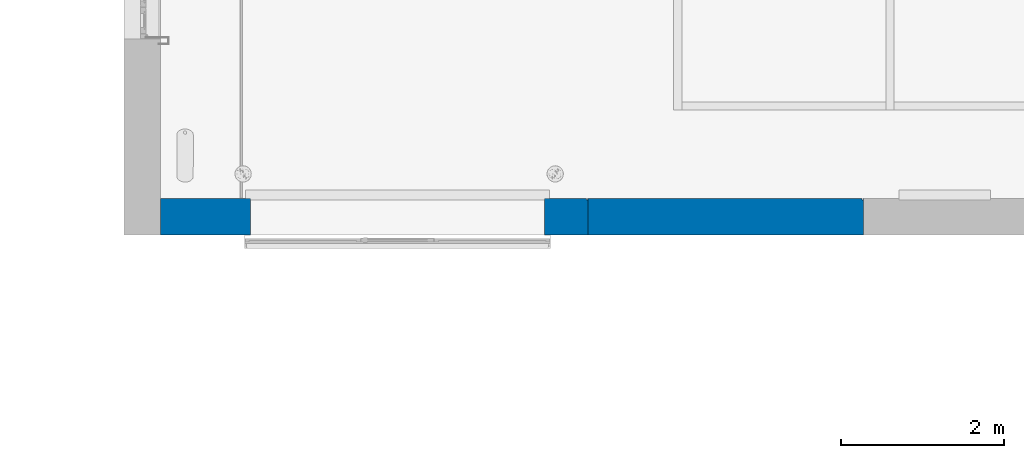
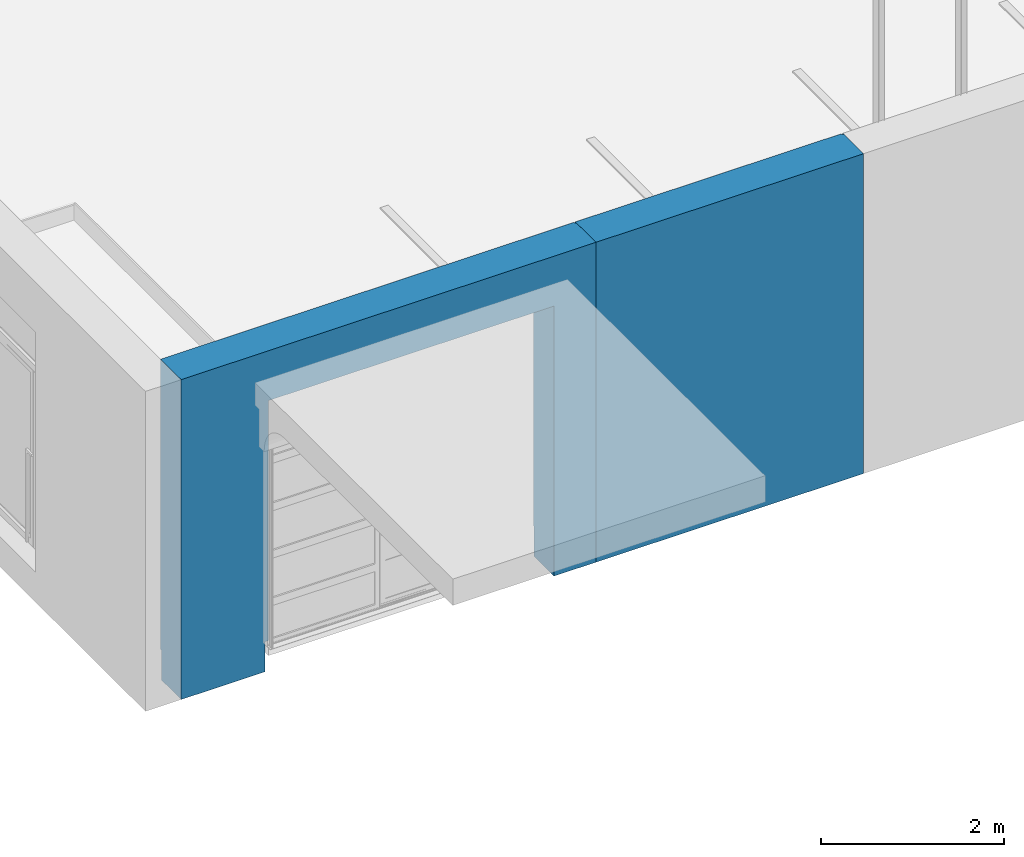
# One storey, part 28 of 77: 2 walls, 6 openings.
"""IFC2X3 building model written with IfcOpenShell, lengths in millimetres."""

from ifc_helpers import new_model, entity, si_unit, converted_unit, derived_unit, direction, frame, frame_2d, origin, origin_2d_with_axis, place, context, subcontext, project, spatial, rectangle, extrude, faceted_brep, material, layer, layer_set, layer_usage, type_object, element, save


model = new_model("IFC2X3")

# Units and contexts
model_context = context("Model", 3, precision=0.01, world=origin(), true_north=direction((6.12303176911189e-17, 1.0)))
body_context = subcontext(model_context, "Body", "Model", "MODEL_VIEW")
ifc_project = project(units=[si_unit("LENGTHUNIT", "METRE", prefix="MILLI"), si_unit("AREAUNIT", "SQUARE_METRE"), si_unit("VOLUMEUNIT", "CUBIC_METRE"), converted_unit("PLANEANGLEUNIT", "DEGREE", entity("IfcRatioMeasure", 0.0174532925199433), si_unit("PLANEANGLEUNIT", "RADIAN"), dimensions=[0, 0, 0, 0, 0, 0, 0]), si_unit("MASSUNIT", "GRAM", prefix="KILO"), derived_unit("MASSDENSITYUNIT", [(si_unit("MASSUNIT", "GRAM", prefix="KILO"), 1), (si_unit("LENGTHUNIT", "METRE"), -3)]), si_unit("TIMEUNIT", "SECOND"), si_unit("FREQUENCYUNIT", "HERTZ"), si_unit("THERMODYNAMICTEMPERATUREUNIT", "DEGREE_CELSIUS"), derived_unit("THERMALTRANSMITTANCEUNIT", [(si_unit("MASSUNIT", "GRAM", prefix="KILO"), 1), (si_unit("THERMODYNAMICTEMPERATUREUNIT", "KELVIN"), -1), (si_unit("TIMEUNIT", "SECOND"), -3)]), derived_unit("VOLUMETRICFLOWRATEUNIT", [(si_unit("LENGTHUNIT", "METRE"), 3), (si_unit("TIMEUNIT", "SECOND"), -1)]), si_unit("ELECTRICCURRENTUNIT", "AMPERE"), si_unit("ELECTRICVOLTAGEUNIT", "VOLT"), si_unit("POWERUNIT", "WATT"), si_unit("FORCEUNIT", "NEWTON", prefix="KILO"), si_unit("ILLUMINANCEUNIT", "LUX"), si_unit("LUMINOUSFLUXUNIT", "LUMEN"), si_unit("LUMINOUSINTENSITYUNIT", "CANDELA"), derived_unit("USERDEFINED", [(si_unit("MASSUNIT", "GRAM", prefix="KILO"), -1), (si_unit("LENGTHUNIT", "METRE"), -2), (si_unit("TIMEUNIT", "SECOND"), 3), (si_unit("LUMINOUSFLUXUNIT", "LUMEN"), 1)]), derived_unit("LINEARVELOCITYUNIT", [(si_unit("LENGTHUNIT", "METRE"), 1), (si_unit("TIMEUNIT", "SECOND"), -1)]), si_unit("PRESSUREUNIT", "PASCAL"), derived_unit("USERDEFINED", [(si_unit("LENGTHUNIT", "METRE"), -2), (si_unit("MASSUNIT", "GRAM", prefix="KILO"), 1), (si_unit("TIMEUNIT", "SECOND"), -2)])], contexts=[model_context])

# Site, building, storey
site_placement = place(None, origin())
site = spatial("IfcSite", under=ifc_project, at=site_placement, Name="Default", CompositionType="ELEMENT")
building_placement = place(site_placement, origin())
building = spatial("IfcBuilding", under=site, at=building_placement, CompositionType="ELEMENT")
storey_placement = place(building_placement, origin())
storey = spatial("IfcBuildingStorey", under=building, at=storey_placement, Name="1. KORRUS", CompositionType="ELEMENT", Elevation=0.0)

# Wall, openings
ifc_material_1 = material(Name="RECKLI 1 173 THUR by Polantis 2016-toon3")
ifc_layer_1 = layer(ifc_material_1, 100.0)
ifc_material_2 = material(Name="Soojusisolatsioon EPS")
ifc_layer_2 = layer(ifc_material_2, 200.0)
ifc_material_3 = material(Name="r/b")
ifc_layer_3 = layer(ifc_material_3, 150.0)
ifc_layer_set = layer_set([ifc_layer_1, ifc_layer_2, ifc_layer_3], Name="Basic Wall:VS-1_toon-b")
ifc_layer_usage_1 = layer_usage(ifc_layer_set, "AXIS2", "NEGATIVE", 225.0)
wall_type = type_object("IfcWallType", Name="Basic Wall:VS-1_toon-b", PredefinedType="STANDARD", material=ifc_layer_set)
wall_1_placement = place(storey_placement, frame((9650.0, 21725.0517807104, -400.0)))
wall_1 = element("IfcWallStandardCase", 1, at=wall_1_placement, inside=storey, type_object=wall_type, material=ifc_layer_usage_1, Name="Basic Wall:VS-1_toon-b", ObjectType="Basic Wall:VS-1_toon-b", context=body_context, shape_type="SweptSolid", body=[
    extrude(rectangle(XDim=5230.00000000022, YDim=450.000000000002, at=frame_2d((2615.00000000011, -3.5527136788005e-13), x_axis=(-1.0, 0.0))), origin(), (0.0, 0.0, 1.0), 4265.0),
])
opening_1_placement = place(wall_1_placement, origin())
element("IfcOpeningElement", 2, at=opening_1_placement, cuts=wall_1, Name="Basic Wall:VS-1_toon-b", ObjectType="Opening", context=body_context, shape_type="Brep", body=[
    faceted_brep([(-10080.0, 6304.94821928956, 400.0), (-10080.0, 6304.94821928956, 0.0), (-10100.0, 6324.94821928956, 0.0), (-10100.0, 6324.94821928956, 400.0), (-10080.0, 1564.94821928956, 400.0), (-10100.0, 1564.94821928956, 400.0), (-10100.0, 1564.94821928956, 0.0), (-10080.0, 1564.94821928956, 0.0)], [[[0, 1, 2, 3]], [[4, 5, 6, 7]], [[1, 0, 4, 7]], [[2, 1, 7, 6]], [[3, 2, 6, 5]], [[0, 3, 5, 4]]]),
    faceted_brep([(-10080.0, 6304.94821928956, 400.0), (-10100.0, 6324.94821928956, 400.0), (-10100.0, 6324.94821928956, 0.0), (-10080.0, 6304.94821928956, 0.0), (-5740.0, 6304.94821928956, 400.0), (-5740.0, 6304.94821928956, 0.0), (-5740.0, 6324.94821928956, 0.0), (-5740.0, 6324.94821928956, 400.0)], [[[0, 1, 2, 3]], [[4, 5, 6, 7]], [[1, 0, 4, 7]], [[2, 1, 7, 6]], [[3, 2, 6, 5]], [[0, 3, 5, 4]]]),
    faceted_brep([(-20.0, 6304.94821928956, 400.0), (0.0, 6324.94821928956, 400.0), (0.0, 6324.94821928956, 0.0), (-20.0, 6304.94821928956, 0.0), (-20.0, 205.0, 400.0), (-20.0, 205.0, 0.0), (0.0, 225.0, 0.0), (0.0, 225.0, 400.0)], [[[0, 1, 2, 3]], [[4, 5, 6, 7]], [[1, 0, 4, 7]], [[2, 1, 7, 6]], [[3, 2, 6, 5]], [[0, 3, 5, 4]]]),
    faceted_brep([(4700.0, 205.0, 400.0), (4700.0, 225.0, 400.0), (4700.0, 225.0, 0.0), (4700.0, 205.0, 0.0), (5230.0, 205.0, 400.0), (5230.0, 205.0, 0.0), (5230.0, 225.0, 0.0), (5230.0, 225.0, 400.0)], [[[0, 1, 2, 3]], [[4, 5, 6, 7]], [[1, 0, 4, 7]], [[2, 1, 7, 6]], [[3, 2, 6, 5]], [[0, 3, 5, 4]]]),
    faceted_brep([(30280.0, 205.0, 400.0), (30300.0, 225.0, 400.0), (30300.0, 225.0, 0.0), (30280.0, 205.0, 0.0), (30280.0, -5935.05178071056, 400.0), (30280.0, -5935.05178071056, 0.0), (30300.0, -5935.05178071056, 0.0), (30300.0, -5935.05178071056, 400.0)], [[[0, 1, 2, 3]], [[4, 5, 6, 7]], [[1, 0, 4, 7]], [[2, 1, 7, 6]], [[3, 2, 6, 5]], [[0, 3, 5, 4]]]),
    faceted_brep([(30280.0, -22155.0517807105, 400.0), (30300.0, -22175.0517807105, 400.0), (30300.0, -22175.0517807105, 0.0), (30280.0, -22155.0517807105, 0.0), (25150.0, -22155.0517807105, 400.0), (25150.0, -22155.0517807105, 0.0), (25150.0, -22175.0517807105, 0.0), (25150.0, -22175.0517807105, 400.0)], [[[0, 1, 2, 3]], [[4, 5, 6, 7]], [[1, 0, 4, 7]], [[2, 1, 7, 6]], [[3, 2, 6, 5]], [[0, 3, 5, 4]]]),
    faceted_brep([(1750.0, -22155.0517807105, 400.0), (1750.0, -22175.0517807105, 400.0), (1750.0, -22175.0517807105, 0.0), (1750.0, -22155.0517807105, 0.0), (-2035.0, -22155.0517807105, 400.0), (-2035.0, -22155.0517807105, 0.0), (-2035.0, -22175.0517807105, 0.0), (-2035.0, -22175.0517807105, 400.0)], [[[0, 1, 2, 3]], [[4, 5, 6, 7]], [[1, 0, 4, 7]], [[2, 1, 7, 6]], [[3, 2, 6, 5]], [[0, 3, 5, 4]]]),
    faceted_brep([(30280.0, -8965.05178071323, 400.0), (30300.0, -8965.05178071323, 400.0), (30300.0, -8965.05178071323, 0.0), (30280.0, -8965.05178071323, 0.0), (30280.0, -13081.7217807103, 400.0), (30280.0, -13081.7217807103, 0.0), (30300.0, -13081.7217807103, 0.0), (30300.0, -13081.7217807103, 400.0)], [[[0, 1, 2, 3]], [[4, 5, 6, 7]], [[1, 0, 4, 7]], [[2, 1, 7, 6]], [[3, 2, 6, 5]], [[0, 3, 5, 4]]]),
    faceted_brep([(21550.0, -22155.0517807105, 400.0), (21550.0, -22175.0517807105, 400.0), (21550.0, -22175.0517807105, 0.0), (21550.0, -22155.0517807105, 0.0), (19150.0, -22155.0517807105, 400.0), (19150.0, -22155.0517807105, 0.0), (19150.0, -22175.0517807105, 0.0), (19150.0, -22175.0517807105, 400.0)], [[[0, 1, 2, 3]], [[4, 5, 6, 7]], [[1, 0, 4, 7]], [[2, 1, 7, 6]], [[3, 2, 6, 5]], [[0, 3, 5, 4]]]),
    faceted_brep([(-5859.96917624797, -22155.0517807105, 400.0), (-5859.96917624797, -22175.0517807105, 400.0), (-5859.96917624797, -22175.0517807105, 0.0), (-5859.96917624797, -22155.0517807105, 0.0), (-8344.96917624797, -22155.0517807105, 400.0), (-8344.96917624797, -22155.0517807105, 0.0), (-8344.96917624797, -22175.0517807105, 0.0), (-8344.96917624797, -22175.0517807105, 400.0)], [[[0, 1, 2, 3]], [[4, 5, 6, 7]], [[1, 0, 4, 7]], [[2, 1, 7, 6]], [[3, 2, 6, 5]], [[0, 3, 5, 4]]]),
    faceted_brep([(6350.0, -22155.0517807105, 400.0), (6350.0, -22175.0517807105, 400.0), (6350.0, -22175.0517807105, 0.0), (6350.0, -22155.0517807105, 0.0), (5350.0, -22155.0517807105, 400.0), (5350.0, -22155.0517807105, 0.0), (5350.0, -22175.0517807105, 0.0), (5350.0, -22175.0517807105, 400.0)], [[[0, 1, 2, 3]], [[4, 5, 6, 7]], [[1, 0, 4, 7]], [[2, 1, 7, 6]], [[3, 2, 6, 5]], [[0, 3, 5, 4]]]),
    faceted_brep([(10950.0316629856, -22155.0517807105, 400.0), (10950.0316629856, -22175.0517807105, 400.0), (10950.0316629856, -22175.0517807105, 0.0), (10950.0316629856, -22155.0517807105, 0.0), (9950.0, -22155.0517807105, 400.0), (9950.0, -22155.0517807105, 0.0), (9950.0, -22175.0517807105, 0.0), (9950.0, -22175.0517807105, 400.0)], [[[0, 1, 2, 3]], [[4, 5, 6, 7]], [[1, 0, 4, 7]], [[2, 1, 7, 6]], [[3, 2, 6, 5]], [[0, 3, 5, 4]]]),
    faceted_brep([(15550.0316629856, -22155.0517807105, 400.0), (15550.0316629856, -22175.0517807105, 400.0), (15550.0316629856, -22175.0517807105, 0.0), (15550.0316629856, -22155.0517807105, 0.0), (14550.0, -22155.0517807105, 400.0), (14550.0, -22155.0517807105, 0.0), (14550.0, -22175.0517807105, 0.0), (14550.0, -22175.0517807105, 400.0)], [[[0, 1, 2, 3]], [[4, 5, 6, 7]], [[1, 0, 4, 7]], [[2, 1, 7, 6]], [[3, 2, 6, 5]], [[0, 3, 5, 4]]]),
    faceted_brep([(30280.0, -17310.0517807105, 400.0), (30300.0, -17310.0517807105, 400.0), (30300.0, -17310.0517807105, 0.0), (30280.0, -17310.0517807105, 0.0), (30280.0, -22155.0517807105, 400.0), (30280.0, -22155.0517807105, 0.0), (30300.0, -22175.0517807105, 0.0), (30300.0, -22175.0517807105, 400.0)], [[[0, 1, 2, 3]], [[4, 5, 6, 7]], [[1, 0, 4, 7]], [[2, 1, 7, 6]], [[3, 2, 6, 5]], [[0, 3, 5, 4]]]),
    faceted_brep([(30280.0, -13081.7217807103, 400.0), (30300.0, -13081.7217807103, 400.0), (30300.0, -13081.7217807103, 0.0), (30280.0, -13081.7217807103, 0.0), (30280.0, -17310.0517807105, 400.0), (30280.0, -17310.0517807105, 0.0), (30300.0, -17310.0517807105, 0.0), (30300.0, -17310.0517807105, 400.0)], [[[0, 1, 2, 3]], [[4, 5, 6, 7]], [[1, 0, 4, 7]], [[2, 1, 7, 6]], [[3, 2, 6, 5]], [[0, 3, 5, 4]]]),
    faceted_brep([(30280.0, -5935.05178071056, 400.0), (30300.0, -5935.05178071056, 400.0), (30300.0, -5935.05178071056, 0.0), (30280.0, -5935.05178071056, 0.0), (30280.0, -8965.05178071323, 400.0), (30280.0, -8965.05178071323, 0.0), (30300.0, -8965.05178071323, 0.0), (30300.0, -8965.05178071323, 400.0)], [[[0, 1, 2, 3]], [[4, 5, 6, 7]], [[1, 0, 4, 7]], [[2, 1, 7, 6]], [[3, 2, 6, 5]], [[0, 3, 5, 4]]]),
    faceted_brep([(24320.1035702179, 205.0, 400.0), (24320.1035702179, 225.0, 400.0), (24320.1035702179, 225.0, 0.0), (24320.1035702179, 205.0, 0.0), (30280.0, 205.0, 400.0), (30280.0, 205.0, 0.0), (30300.0, 225.0, 0.0), (30300.0, 225.0, 400.0)], [[[0, 1, 2, 3]], [[4, 5, 6, 7]], [[1, 0, 4, 7]], [[2, 1, 7, 6]], [[3, 2, 6, 5]], [[0, 3, 5, 4]]]),
    faceted_brep([(19013.2161487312, 205.0, 400.0), (19013.2161487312, 225.0, 400.0), (19013.2161487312, 225.0, 0.0), (19013.2161487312, 205.0, 0.0), (24320.1035702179, 205.0, 400.0), (24320.1035702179, 205.0, 0.0), (24320.1035702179, 225.0, 0.0), (24320.1035702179, 225.0, 400.0)], [[[0, 1, 2, 3]], [[4, 5, 6, 7]], [[1, 0, 4, 7]], [[2, 1, 7, 6]], [[3, 2, 6, 5]], [[0, 3, 5, 4]]]),
    faceted_brep([(-2035.0, -22155.0517807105, 400.0), (-2035.0, -22175.0517807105, 400.0), (-2035.0, -22175.0517807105, 0.0), (-2035.0, -22155.0517807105, 0.0), (-5859.96917624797, -22155.0517807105, 400.0), (-5859.96917624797, -22155.0517807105, 0.0), (-5859.96917624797, -22175.0517807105, 0.0), (-5859.96917624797, -22175.0517807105, 400.0)], [[[0, 1, 2, 3]], [[4, 5, 6, 7]], [[1, 0, 4, 7]], [[2, 1, 7, 6]], [[3, 2, 6, 5]], [[0, 3, 5, 4]]]),
    faceted_brep([(12435.0, 205.0, 400.0), (12435.0, 225.0, 400.0), (12435.0, 225.0, 0.0), (12435.0, 205.0, 0.0), (19013.2161487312, 205.0, 400.0), (19013.2161487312, 205.0, 0.0), (19013.2161487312, 225.0, 0.0), (19013.2161487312, 225.0, 400.0)], [[[0, 1, 2, 3]], [[4, 5, 6, 7]], [[1, 0, 4, 7]], [[2, 1, 7, 6]], [[3, 2, 6, 5]], [[0, 3, 5, 4]]]),
    faceted_brep([(8603.35289101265, 205.0, 400.0), (8603.35289101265, 225.0, 400.0), (8603.35289101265, 225.0, 0.0), (8603.35289101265, 205.0, 0.0), (12435.0, 205.0, 400.0), (12435.0, 205.0, 0.0), (12435.0, 225.0, 0.0), (12435.0, 225.0, 400.0)], [[[0, 1, 2, 3]], [[4, 5, 6, 7]], [[1, 0, 4, 7]], [[2, 1, 7, 6]], [[3, 2, 6, 5]], [[0, 3, 5, 4]]]),
    faceted_brep([(5230.0, 205.0, 400.0), (5230.0, 225.0, 400.0), (5230.0, 225.0, 0.0), (5230.0, 205.0, 0.0), (8603.35289101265, 205.0, 400.0), (8603.35289101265, 205.0, 0.0), (8603.35289101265, 225.0, 0.0), (8603.35289101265, 225.0, 400.0)], [[[0, 1, 2, 3]], [[4, 5, 6, 7]], [[1, 0, 4, 7]], [[2, 1, 7, 6]], [[3, 2, 6, 5]], [[0, 3, 5, 4]]]),
    faceted_brep([(-5740.0, 6304.94821928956, 400.0), (-5740.0, 6324.94821928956, 400.0), (-5740.0, 6324.94821928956, 0.0), (-5740.0, 6304.94821928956, 0.0), (-20.0, 6304.94821928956, 400.0), (-20.0, 6304.94821928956, 0.0), (0.0, 6324.94821928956, 0.0), (0.0, 6324.94821928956, 400.0)], [[[0, 1, 2, 3]], [[4, 5, 6, 7]], [[1, 0, 4, 7]], [[2, 1, 7, 6]], [[3, 2, 6, 5]], [[0, 3, 5, 4]]]),
    faceted_brep([(-10080.0, 1564.94821928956, 400.0), (-10080.0, 1564.94821928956, 0.0), (-10100.0, 1564.94821928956, 0.0), (-10100.0, 1564.94821928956, 400.0), (-10080.0, -3985.05108347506, 400.0), (-10100.0, -3985.05108347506, 400.0), (-10100.0, -3985.05108347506, 0.0), (-10080.0, -3985.05108347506, 0.0)], [[[0, 1, 2, 3]], [[4, 5, 6, 7]], [[1, 0, 4, 7]], [[2, 1, 7, 6]], [[3, 2, 6, 5]], [[0, 3, 5, 4]]]),
    faceted_brep([(-10080.0, -3985.05108347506, 400.0), (-10080.0, -3985.05108347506, 0.0), (-10100.0, -3985.05108347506, 0.0), (-10100.0, -3985.05108347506, 400.0), (-10080.0, -8925.05178071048, 400.0), (-10100.0, -8925.05178071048, 400.0), (-10100.0, -8925.05178071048, 0.0), (-10080.0, -8925.05178071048, 0.0)], [[[0, 1, 2, 3]], [[4, 5, 6, 7]], [[1, 0, 4, 7]], [[2, 1, 7, 6]], [[3, 2, 6, 5]], [[0, 3, 5, 4]]]),
    faceted_brep([(-20.0, 205.0, 400.0), (0.0, 225.0, 400.0), (0.0, 225.0, 0.0), (-20.0, 205.0, 0.0), (1100.0, 205.0, 400.0), (1100.0, 205.0, 0.0), (1100.0, 225.0, 0.0), (1100.0, 225.0, 400.0)], [[[0, 1, 2, 3]], [[4, 5, 6, 7]], [[1, 0, 4, 7]], [[2, 1, 7, 6]], [[3, 2, 6, 5]], [[0, 3, 5, 4]]]),
])
opening_2_placement = place(wall_1_placement, origin())
element("IfcOpeningElement", 3, at=opening_2_placement, cuts=wall_1, Name="Basic Wall:VS-1_toon-b", ObjectType="Recess", context=body_context, shape_type="SweptSolid", body=[
    extrude(rectangle(XDim=4265.0, YDim=16.0000000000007, at=origin_2d_with_axis()), frame((5220.0, 205.0, 2132.5), z_axis=(0.0, 1.0, 0.0), x_axis=(0.0, 0.0, 1.0)), (0.0, 0.0, 1.0), 19.9999999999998),
    extrude(rectangle(XDim=4835.0, YDim=16.0000000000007, at=frame_2d((2.27373675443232e-13, 0.0), x_axis=(1.0, 0.0))), frame((5220.0, 205.0, 6682.5), z_axis=(0.0, 1.0, 0.0), x_axis=(0.0, 0.0, 1.0)), (0.0, 0.0, 1.0), 19.9999999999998),
])
opening_3_placement = place(wall_1_placement, origin())
element("IfcOpeningElement", 4, at=opening_3_placement, cuts=wall_1, Name="Basic Wall:VS-1_toon-b", ObjectType="Opening", context=body_context, shape_type="SweptSolid", body=[
    extrude(rectangle(XDim=399.999999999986, YDim=3645.04779193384, at=frame_2d((-1.13686837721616e-12, 2.94164692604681e-12), x_axis=(0.0, 1.0))), frame((2877.47610403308, 225.0, 200.0), z_axis=(0.0, -1.0, 0.0), x_axis=(1.0, 0.0, 0.0)), (0.0, 0.0, 1.0), 450.0),
])
opening_4_placement = place(wall_1_placement, frame((4700.0, 225.0, 400.0)))
element("IfcOpeningElement", 5, at=opening_4_placement, cuts=wall_1, Name="Doors_Industrial_ASSA-ABLOY-OH1042F_With-Passdoor-Low-Threshold:GU03_Doors_Industrial_ASSA-ABLOY-OH1042F_With-Passdoor-Low-Threshold:1", ObjectType="Opening", context=body_context, shape_type="SweptSolid", body=[
    extrude(rectangle(XDim=3199.99999999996, YDim=3600.0, at=frame_2d((1599.99999999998, 1800.0), x_axis=(1.0, 0.0))), frame((0.0, 0.0, 0.0), z_axis=(0.0, -1.0, 0.0), x_axis=(0.0, 0.0, 1.0)), (0.0, 0.0, 1.0), 450.0),
])

ifc_layer_usage_2 = layer_usage(ifc_layer_set, "AXIS2", "NEGATIVE", 225.0)
wall_2_placement = place(storey_placement, frame((14880.0, 21725.0517807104, -400.0)))
wall_2 = element("IfcWallStandardCase", 6, at=wall_2_placement, inside=storey, type_object=wall_type, material=ifc_layer_usage_2, Name="Basic Wall:VS-1_toon-b", ObjectType="Basic Wall:VS-1_toon-b", context=body_context, shape_type="SweptSolid", body=[
    extrude(rectangle(XDim=3373.35289101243, YDim=450.000000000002, at=frame_2d((1686.67644550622, 0.0), x_axis=(-1.0, 0.0))), origin(), (0.0, 0.0, 1.0), 4265.0),
])
opening_5_placement = place(wall_2_placement, origin())
element("IfcOpeningElement", 7, at=opening_5_placement, cuts=wall_2, Name="Basic Wall:VS-1_toon-b", ObjectType="Recess", context=body_context, shape_type="SweptSolid", body=[
    extrude(rectangle(XDim=4265.0, YDim=16.0000000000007, at=origin_2d_with_axis()), frame((3361.35289101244, 205.0, 2132.5), z_axis=(0.0, 1.0, 0.0), x_axis=(0.0, 0.0, 1.0)), (0.0, 0.0, 1.0), 19.9999999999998),
    extrude(rectangle(XDim=4835.0, YDim=16.0000000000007, at=frame_2d((2.27373675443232e-13, 0.0), x_axis=(1.0, 0.0))), frame((3361.35289101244, 205.0, 6682.5), z_axis=(0.0, 1.0, 0.0), x_axis=(0.0, 0.0, 1.0)), (0.0, 0.0, 1.0), 19.9999999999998),
])
opening_6_placement = place(wall_2_placement, origin())
element("IfcOpeningElement", 8, at=opening_6_placement, cuts=wall_2, Name="Basic Wall:VS-1_toon-b", ObjectType="Opening", context=body_context, shape_type="Brep", body=[
    faceted_brep([(-15310.0, 6304.94821928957, 400.0), (-15310.0, 6304.94821928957, 0.0), (-15330.0, 6324.94821928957, 0.0), (-15330.0, 6324.94821928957, 400.0), (-15310.0, 1564.94821928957, 400.0), (-15330.0, 1564.94821928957, 400.0), (-15330.0, 1564.94821928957, 0.0), (-15310.0, 1564.94821928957, 0.0)], [[[0, 1, 2, 3]], [[4, 5, 6, 7]], [[1, 0, 4, 7]], [[2, 1, 7, 6]], [[3, 2, 6, 5]], [[0, 3, 5, 4]]]),
    faceted_brep([(-15310.0, 6304.94821928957, 400.0), (-15330.0, 6324.94821928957, 400.0), (-15330.0, 6324.94821928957, 0.0), (-15310.0, 6304.94821928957, 0.0), (-10970.0, 6304.94821928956, 400.0), (-10970.0, 6304.94821928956, 0.0), (-10970.0, 6324.94821928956, 0.0), (-10970.0, 6324.94821928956, 400.0)], [[[0, 1, 2, 3]], [[4, 5, 6, 7]], [[1, 0, 4, 7]], [[2, 1, 7, 6]], [[3, 2, 6, 5]], [[0, 3, 5, 4]]]),
    faceted_brep([(-5250.0, 6304.94821928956, 400.0), (-5230.0, 6324.94821928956, 400.0), (-5230.0, 6324.94821928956, 0.0), (-5250.0, 6304.94821928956, 0.0), (-5250.0, 205.0, 400.0), (-5250.0, 205.0, 0.0), (-5230.0, 225.0, 0.0), (-5230.0, 225.0, 400.0)], [[[0, 1, 2, 3]], [[4, 5, 6, 7]], [[1, 0, 4, 7]], [[2, 1, 7, 6]], [[3, 2, 6, 5]], [[0, 3, 5, 4]]]),
    faceted_brep([(-530.0, 205.0, 400.0), (-530.0, 225.0, 400.0), (-530.0, 225.0, 0.0), (-530.0, 205.0, 0.0), (0.0, 205.0, 400.0), (0.0, 205.0, 0.0), (0.0, 225.0, 0.0), (0.0, 225.0, 400.0)], [[[0, 1, 2, 3]], [[4, 5, 6, 7]], [[1, 0, 4, 7]], [[2, 1, 7, 6]], [[3, 2, 6, 5]], [[0, 3, 5, 4]]]),
    faceted_brep([(25050.0, 205.0, 400.0), (25070.0, 225.0, 400.0), (25070.0, 225.0, 0.0), (25050.0, 205.0, 0.0), (25050.0, -5935.05178071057, 400.0), (25050.0, -5935.05178071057, 0.0), (25070.0, -5935.05178071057, 0.0), (25070.0, -5935.05178071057, 400.0)], [[[0, 1, 2, 3]], [[4, 5, 6, 7]], [[1, 0, 4, 7]], [[2, 1, 7, 6]], [[3, 2, 6, 5]], [[0, 3, 5, 4]]]),
    faceted_brep([(25050.0, -22155.0517807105, 400.0), (25070.0, -22175.0517807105, 400.0), (25070.0, -22175.0517807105, 0.0), (25050.0, -22155.0517807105, 0.0), (19920.0, -22155.0517807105, 400.0), (19920.0, -22155.0517807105, 0.0), (19920.0, -22175.0517807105, 0.0), (19920.0, -22175.0517807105, 400.0)], [[[0, 1, 2, 3]], [[4, 5, 6, 7]], [[1, 0, 4, 7]], [[2, 1, 7, 6]], [[3, 2, 6, 5]], [[0, 3, 5, 4]]]),
    faceted_brep([(-3480.0, -22155.0517807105, 400.0), (-3480.0, -22175.0517807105, 400.0), (-3480.0, -22175.0517807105, 0.0), (-3480.0, -22155.0517807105, 0.0), (-7265.0, -22155.0517807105, 400.0), (-7265.0, -22155.0517807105, 0.0), (-7265.0, -22175.0517807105, 0.0), (-7265.0, -22175.0517807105, 400.0)], [[[0, 1, 2, 3]], [[4, 5, 6, 7]], [[1, 0, 4, 7]], [[2, 1, 7, 6]], [[3, 2, 6, 5]], [[0, 3, 5, 4]]]),
    faceted_brep([(25050.0, -8965.05178071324, 400.0), (25070.0, -8965.05178071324, 400.0), (25070.0, -8965.05178071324, 0.0), (25050.0, -8965.05178071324, 0.0), (25050.0, -13081.7217807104, 400.0), (25050.0, -13081.7217807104, 0.0), (25070.0, -13081.7217807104, 0.0), (25070.0, -13081.7217807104, 400.0)], [[[0, 1, 2, 3]], [[4, 5, 6, 7]], [[1, 0, 4, 7]], [[2, 1, 7, 6]], [[3, 2, 6, 5]], [[0, 3, 5, 4]]]),
    faceted_brep([(16320.0, -22155.0517807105, 400.0), (16320.0, -22175.0517807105, 400.0), (16320.0, -22175.0517807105, 0.0), (16320.0, -22155.0517807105, 0.0), (13920.0, -22155.0517807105, 400.0), (13920.0, -22155.0517807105, 0.0), (13920.0, -22175.0517807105, 0.0), (13920.0, -22175.0517807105, 400.0)], [[[0, 1, 2, 3]], [[4, 5, 6, 7]], [[1, 0, 4, 7]], [[2, 1, 7, 6]], [[3, 2, 6, 5]], [[0, 3, 5, 4]]]),
    faceted_brep([(-11089.9691762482, -22155.0517807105, 400.0), (-11089.9691762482, -22175.0517807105, 400.0), (-11089.9691762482, -22175.0517807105, 0.0), (-11089.9691762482, -22155.0517807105, 0.0), (-13574.9691762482, -22155.0517807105, 400.0), (-13574.9691762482, -22155.0517807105, 0.0), (-13574.9691762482, -22175.0517807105, 0.0), (-13574.9691762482, -22175.0517807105, 400.0)], [[[0, 1, 2, 3]], [[4, 5, 6, 7]], [[1, 0, 4, 7]], [[2, 1, 7, 6]], [[3, 2, 6, 5]], [[0, 3, 5, 4]]]),
    faceted_brep([(1120.0, -22155.0517807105, 400.0), (1120.0, -22175.0517807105, 400.0), (1120.0, -22175.0517807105, 0.0), (1120.0, -22155.0517807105, 0.0), (120.0, -22155.0517807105, 400.0), (120.0, -22155.0517807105, 0.0), (120.0, -22175.0517807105, 0.0), (120.0, -22175.0517807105, 400.0)], [[[0, 1, 2, 3]], [[4, 5, 6, 7]], [[1, 0, 4, 7]], [[2, 1, 7, 6]], [[3, 2, 6, 5]], [[0, 3, 5, 4]]]),
    faceted_brep([(5720.03166298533, -22155.0517807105, 400.0), (5720.03166298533, -22175.0517807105, 400.0), (5720.03166298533, -22175.0517807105, 0.0), (5720.03166298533, -22155.0517807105, 0.0), (4720.0, -22155.0517807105, 400.0), (4720.0, -22155.0517807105, 0.0), (4720.0, -22175.0517807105, 0.0), (4720.0, -22175.0517807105, 400.0)], [[[0, 1, 2, 3]], [[4, 5, 6, 7]], [[1, 0, 4, 7]], [[2, 1, 7, 6]], [[3, 2, 6, 5]], [[0, 3, 5, 4]]]),
    faceted_brep([(10320.0316629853, -22155.0517807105, 400.0), (10320.0316629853, -22175.0517807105, 400.0), (10320.0316629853, -22175.0517807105, 0.0), (10320.0316629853, -22155.0517807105, 0.0), (9320.0, -22155.0517807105, 400.0), (9320.0, -22155.0517807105, 0.0), (9320.0, -22175.0517807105, 0.0), (9320.0, -22175.0517807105, 400.0)], [[[0, 1, 2, 3]], [[4, 5, 6, 7]], [[1, 0, 4, 7]], [[2, 1, 7, 6]], [[3, 2, 6, 5]], [[0, 3, 5, 4]]]),
    faceted_brep([(25050.0, -17310.0517807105, 400.0), (25070.0, -17310.0517807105, 400.0), (25070.0, -17310.0517807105, 0.0), (25050.0, -17310.0517807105, 0.0), (25050.0, -22155.0517807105, 400.0), (25050.0, -22155.0517807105, 0.0), (25070.0, -22175.0517807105, 0.0), (25070.0, -22175.0517807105, 400.0)], [[[0, 1, 2, 3]], [[4, 5, 6, 7]], [[1, 0, 4, 7]], [[2, 1, 7, 6]], [[3, 2, 6, 5]], [[0, 3, 5, 4]]]),
    faceted_brep([(25050.0, -13081.7217807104, 400.0), (25070.0, -13081.7217807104, 400.0), (25070.0, -13081.7217807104, 0.0), (25050.0, -13081.7217807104, 0.0), (25050.0, -17310.0517807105, 400.0), (25050.0, -17310.0517807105, 0.0), (25070.0, -17310.0517807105, 0.0), (25070.0, -17310.0517807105, 400.0)], [[[0, 1, 2, 3]], [[4, 5, 6, 7]], [[1, 0, 4, 7]], [[2, 1, 7, 6]], [[3, 2, 6, 5]], [[0, 3, 5, 4]]]),
    faceted_brep([(25050.0, -5935.05178071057, 400.0), (25070.0, -5935.05178071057, 400.0), (25070.0, -5935.05178071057, 0.0), (25050.0, -5935.05178071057, 0.0), (25050.0, -8965.05178071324, 400.0), (25050.0, -8965.05178071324, 0.0), (25070.0, -8965.05178071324, 0.0), (25070.0, -8965.05178071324, 400.0)], [[[0, 1, 2, 3]], [[4, 5, 6, 7]], [[1, 0, 4, 7]], [[2, 1, 7, 6]], [[3, 2, 6, 5]], [[0, 3, 5, 4]]]),
    faceted_brep([(19090.1035702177, 205.0, 400.0), (19090.1035702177, 225.0, 400.0), (19090.1035702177, 225.0, 0.0), (19090.1035702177, 205.0, 0.0), (25050.0, 205.0, 400.0), (25050.0, 205.0, 0.0), (25070.0, 225.0, 0.0), (25070.0, 225.0, 400.0)], [[[0, 1, 2, 3]], [[4, 5, 6, 7]], [[1, 0, 4, 7]], [[2, 1, 7, 6]], [[3, 2, 6, 5]], [[0, 3, 5, 4]]]),
    faceted_brep([(13783.216148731, 205.0, 400.0), (13783.216148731, 225.0, 400.0), (13783.216148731, 225.0, 0.0), (13783.216148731, 205.0, 0.0), (19090.1035702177, 205.0, 400.0), (19090.1035702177, 205.0, 0.0), (19090.1035702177, 225.0, 0.0), (19090.1035702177, 225.0, 400.0)], [[[0, 1, 2, 3]], [[4, 5, 6, 7]], [[1, 0, 4, 7]], [[2, 1, 7, 6]], [[3, 2, 6, 5]], [[0, 3, 5, 4]]]),
    faceted_brep([(-7265.0, -22155.0517807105, 400.0), (-7265.0, -22175.0517807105, 400.0), (-7265.0, -22175.0517807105, 0.0), (-7265.0, -22155.0517807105, 0.0), (-11089.9691762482, -22155.0517807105, 400.0), (-11089.9691762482, -22155.0517807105, 0.0), (-11089.9691762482, -22175.0517807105, 0.0), (-11089.9691762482, -22175.0517807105, 400.0)], [[[0, 1, 2, 3]], [[4, 5, 6, 7]], [[1, 0, 4, 7]], [[2, 1, 7, 6]], [[3, 2, 6, 5]], [[0, 3, 5, 4]]]),
    faceted_brep([(7205.0, 205.0, 400.0), (7205.0, 225.0, 400.0), (7205.0, 225.0, 0.0), (7205.0, 205.0, 0.0), (13783.216148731, 205.0, 400.0), (13783.216148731, 205.0, 0.0), (13783.216148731, 225.0, 0.0), (13783.216148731, 225.0, 400.0)], [[[0, 1, 2, 3]], [[4, 5, 6, 7]], [[1, 0, 4, 7]], [[2, 1, 7, 6]], [[3, 2, 6, 5]], [[0, 3, 5, 4]]]),
    faceted_brep([(3373.35289101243, 205.0, 400.0), (3373.35289101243, 225.0, 400.0), (3373.35289101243, 225.0, 0.0), (3373.35289101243, 205.0, 0.0), (7205.0, 205.0, 400.0), (7205.0, 205.0, 0.0), (7205.0, 225.0, 0.0), (7205.0, 225.0, 400.0)], [[[0, 1, 2, 3]], [[4, 5, 6, 7]], [[1, 0, 4, 7]], [[2, 1, 7, 6]], [[3, 2, 6, 5]], [[0, 3, 5, 4]]]),
    faceted_brep([(0.0, 205.0, 400.0), (0.0, 225.0, 400.0), (0.0, 225.0, 0.0), (0.0, 205.0, 0.0), (3373.35289101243, 205.0, 400.0), (3373.35289101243, 205.0, 0.0), (3373.35289101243, 225.0, 0.0), (3373.35289101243, 225.0, 400.0)], [[[0, 1, 2, 3]], [[4, 5, 6, 7]], [[1, 0, 4, 7]], [[2, 1, 7, 6]], [[3, 2, 6, 5]], [[0, 3, 5, 4]]]),
    faceted_brep([(-10970.0, 6304.94821928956, 400.0), (-10970.0, 6324.94821928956, 400.0), (-10970.0, 6324.94821928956, 0.0), (-10970.0, 6304.94821928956, 0.0), (-5250.0, 6304.94821928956, 400.0), (-5250.0, 6304.94821928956, 0.0), (-5230.0, 6324.94821928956, 0.0), (-5230.0, 6324.94821928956, 400.0)], [[[0, 1, 2, 3]], [[4, 5, 6, 7]], [[1, 0, 4, 7]], [[2, 1, 7, 6]], [[3, 2, 6, 5]], [[0, 3, 5, 4]]]),
    faceted_brep([(-15310.0, 1564.94821928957, 400.0), (-15310.0, 1564.94821928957, 0.0), (-15330.0, 1564.94821928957, 0.0), (-15330.0, 1564.94821928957, 400.0), (-15310.0, -3985.05108347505, 400.0), (-15330.0, -3985.05108347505, 400.0), (-15330.0, -3985.05108347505, 0.0), (-15310.0, -3985.05108347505, 0.0)], [[[0, 1, 2, 3]], [[4, 5, 6, 7]], [[1, 0, 4, 7]], [[2, 1, 7, 6]], [[3, 2, 6, 5]], [[0, 3, 5, 4]]]),
    faceted_brep([(-15310.0, -3985.05108347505, 400.0), (-15310.0, -3985.05108347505, 0.0), (-15330.0, -3985.05108347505, 0.0), (-15330.0, -3985.05108347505, 400.0), (-15310.0, -8925.05178071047, 400.0), (-15330.0, -8925.05178071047, 400.0), (-15330.0, -8925.05178071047, 0.0), (-15310.0, -8925.05178071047, 0.0)], [[[0, 1, 2, 3]], [[4, 5, 6, 7]], [[1, 0, 4, 7]], [[2, 1, 7, 6]], [[3, 2, 6, 5]], [[0, 3, 5, 4]]]),
    faceted_brep([(-5250.0, 205.0, 400.0), (-5230.0, 225.0, 400.0), (-5230.0, 225.0, 0.0), (-5250.0, 205.0, 0.0), (-4130.0, 205.0, 400.0), (-4130.0, 205.0, 0.0), (-4130.0, 225.0, 0.0), (-4130.0, 225.0, 400.0)], [[[0, 1, 2, 3]], [[4, 5, 6, 7]], [[1, 0, 4, 7]], [[2, 1, 7, 6]], [[3, 2, 6, 5]], [[0, 3, 5, 4]]]),
])

save(model, "model.ifc")
